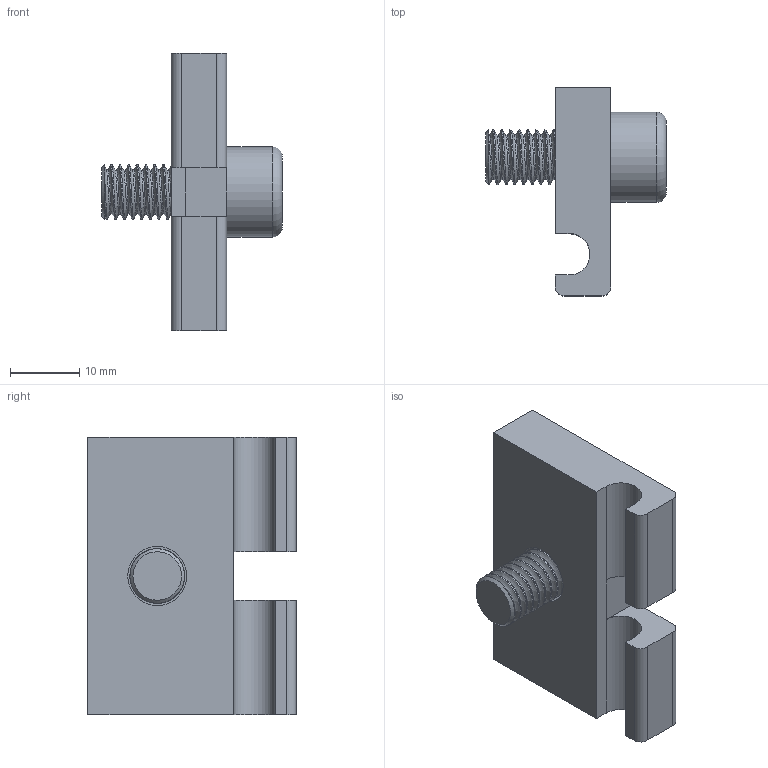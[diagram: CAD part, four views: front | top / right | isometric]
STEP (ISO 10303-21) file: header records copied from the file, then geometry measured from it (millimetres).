
FILE_DESCRIPTION(/* description */ (''),/* implementation_level */ '2;1');
FILE_NAME(/* name */ '/Volumes/MacData/Upwork_customers/ Autoline Automation/05/A/1G.0101.MC v3.step',/* time_stamp */ '2021-09-29T23:03:10+02:00',/* author */ (''),/* organization */ (''),/* preprocessor_version */ 'ST-DEVELOPER v18.1',/* originating_system */ 'Autodesk Translation Framework v10.10.0.1391',/* authorisation */ '');
FILE_SCHEMA (('AUTOMOTIVE_DESIGN { 1 0 10303 214 3 1 1 }'));
Length unit declared in the file: millimetre
Products named in the file (1): 1G.0101.MC
Bounding box: 26 x 30.01 x 40 mm (x, y, z)
Volume: 9342.7 mm3; surface area: 5080 mm2
Topology: 2 solids, 2 shells, 80 faces, 206 edges, 132 vertices
Faces by surface type: cylinder 44, plane 32, bspline 2, torus 1, cone 1
Full cylindrical faces by diameter (mm): 6.446 x4, 7.866 x9, 8.5 x1, 13 x1
Entity records: 4338 total; most frequent: CARTESIAN_POINT 2437, ORIENTED_EDGE 412, DIRECTION 332, EDGE_CURVE 206, VERTEX_POINT 132, AXIS2_PLACEMENT_3D 111, LINE 110, VECTOR 110
